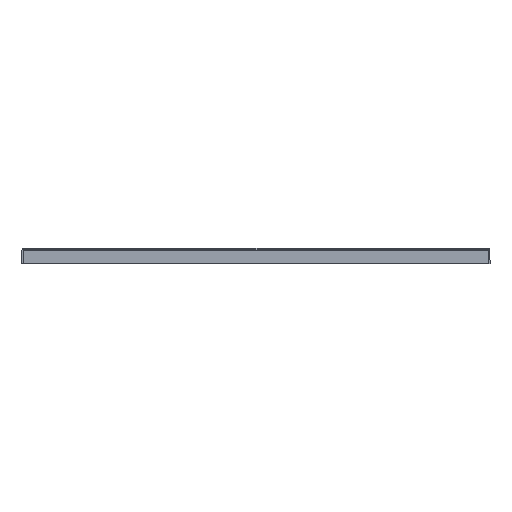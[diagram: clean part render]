
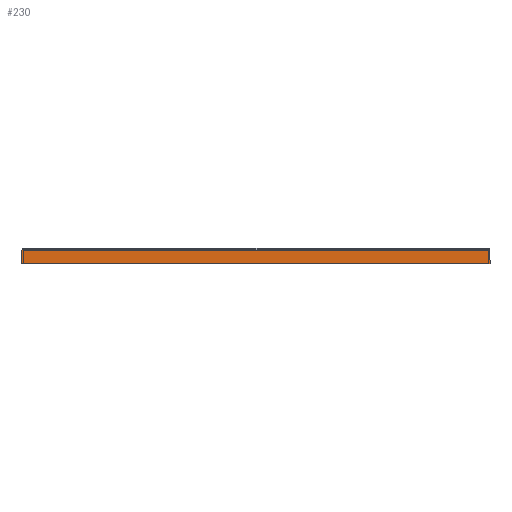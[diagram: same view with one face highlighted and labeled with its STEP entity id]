
A CAD part, front view. The second image highlights one B-rep face of the part: STEP entity #230.
In plain terms, the highlighted planar face has unit normal (0, -1, 0).
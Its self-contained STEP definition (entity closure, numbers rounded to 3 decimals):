
#23 = DIRECTION ( 'NONE',  ( 1., 0., 0. ) ) ;
#126 = AXIS2_PLACEMENT_3D ( 'NONE', #559, #161, #1697 ) ;
#157 = VERTEX_POINT ( 'NONE', #1585 ) ;
#161 = DIRECTION ( 'NONE',  ( 0., 1., 0. ) ) ;
#230 = ADVANCED_FACE ( 'NONE', ( #952 ), #1082, .F. ) ;
#286 = ORIENTED_EDGE ( 'NONE', *, *, #1059, .T. ) ;
#350 = VERTEX_POINT ( 'NONE', #1488 ) ;
#388 = CARTESIAN_POINT ( 'NONE',  ( 240., -900., -0.5 ) ) ;
#399 = ORIENTED_EDGE ( 'NONE', *, *, #908, .T. ) ;
#466 = EDGE_CURVE ( 'NONE', #1027, #157, #623, .T. ) ;
#559 = CARTESIAN_POINT ( 'NONE',  ( -240., -900., 1.5 ) ) ;
#575 = CARTESIAN_POINT ( 'NONE',  ( 240., -900., -14.5 ) ) ;
#623 = LINE ( 'NONE', #1029, #644 ) ;
#644 = VECTOR ( 'NONE', #1157, 1000. ) ;
#878 = CARTESIAN_POINT ( 'NONE',  ( 240., -900., 1.5 ) ) ;
#891 = ORIENTED_EDGE ( 'NONE', *, *, #1574, .F. ) ;
#908 = EDGE_CURVE ( 'NONE', #350, #967, #1665, .T. ) ;
#926 = DIRECTION ( 'NONE',  ( 0., 0., -1. ) ) ;
#950 = CARTESIAN_POINT ( 'NONE',  ( -240., -900., -14.5 ) ) ;
#952 = FACE_OUTER_BOUND ( 'NONE', #1159, .T. ) ;
#967 = VERTEX_POINT ( 'NONE', #575 ) ;
#1027 = VERTEX_POINT ( 'NONE', #388 ) ;
#1029 = CARTESIAN_POINT ( 'NONE',  ( -240., -900., -0.5 ) ) ;
#1059 = EDGE_CURVE ( 'NONE', #157, #350, #1570, .T. ) ;
#1082 = PLANE ( 'NONE',  #126 ) ;
#1157 = DIRECTION ( 'NONE',  ( -1., 0., 0. ) ) ;
#1159 = EDGE_LOOP ( 'NONE', ( #891, #1246, #286, #399 ) ) ;
#1188 = CARTESIAN_POINT ( 'NONE',  ( -240., -900., 1.5 ) ) ;
#1246 = ORIENTED_EDGE ( 'NONE', *, *, #466, .T. ) ;
#1390 = VECTOR ( 'NONE', #1525, 1000. ) ;
#1404 = LINE ( 'NONE', #878, #1390 ) ;
#1488 = CARTESIAN_POINT ( 'NONE',  ( -240., -900., -14.5 ) ) ;
#1525 = DIRECTION ( 'NONE',  ( 0., 0., -1. ) ) ;
#1563 = VECTOR ( 'NONE', #926, 1000. ) ;
#1570 = LINE ( 'NONE', #1188, #1563 ) ;
#1574 = EDGE_CURVE ( 'NONE', #1027, #967, #1404, .T. ) ;
#1585 = CARTESIAN_POINT ( 'NONE',  ( -240., -900., -0.5 ) ) ;
#1651 = VECTOR ( 'NONE', #23, 1000. ) ;
#1665 = LINE ( 'NONE', #950, #1651 ) ;
#1697 = DIRECTION ( 'NONE',  ( 0., 0., 1. ) ) ;
